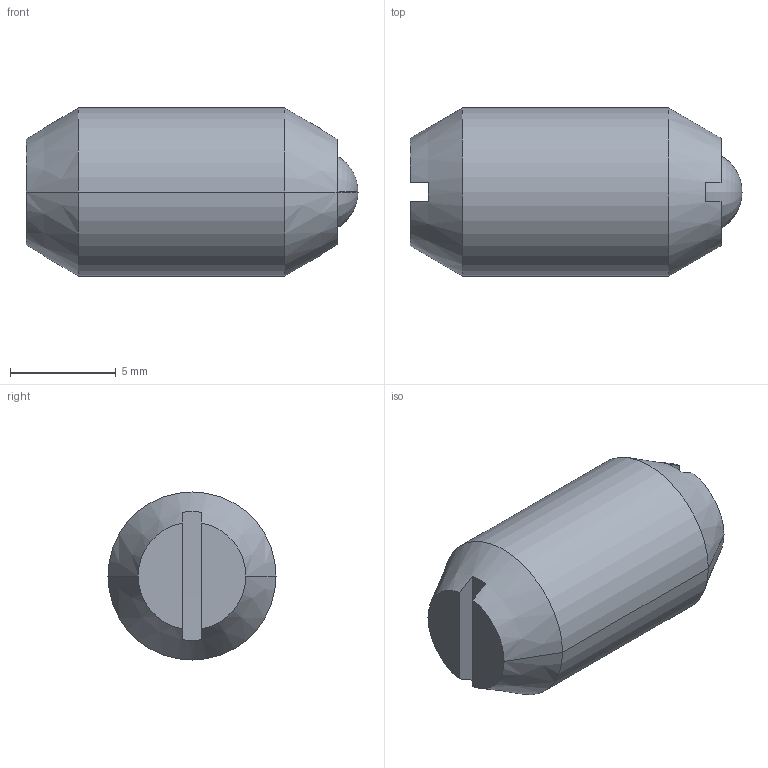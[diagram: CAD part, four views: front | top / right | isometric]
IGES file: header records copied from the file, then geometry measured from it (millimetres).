
Start section:  PTC IGES file: d56-part-3d.igs
Global section: file name: d56-part-3d.igs; native system: Pro/ENGINEER by Parametric Technology Corporation; preprocessor: 2002350; author: chant; organization: Unknown; date: 070201.131238; units: inch
Bounding box: 15.67 x 7.94 x 7.94 mm (x, y, z)
Surface area: 553.4 mm2 (no closed solid volume)
Topology: 0 solids, 0 shells, 24 faces, 174 edges, 220 vertices
Faces by surface type: revolution 13, bspline 11
